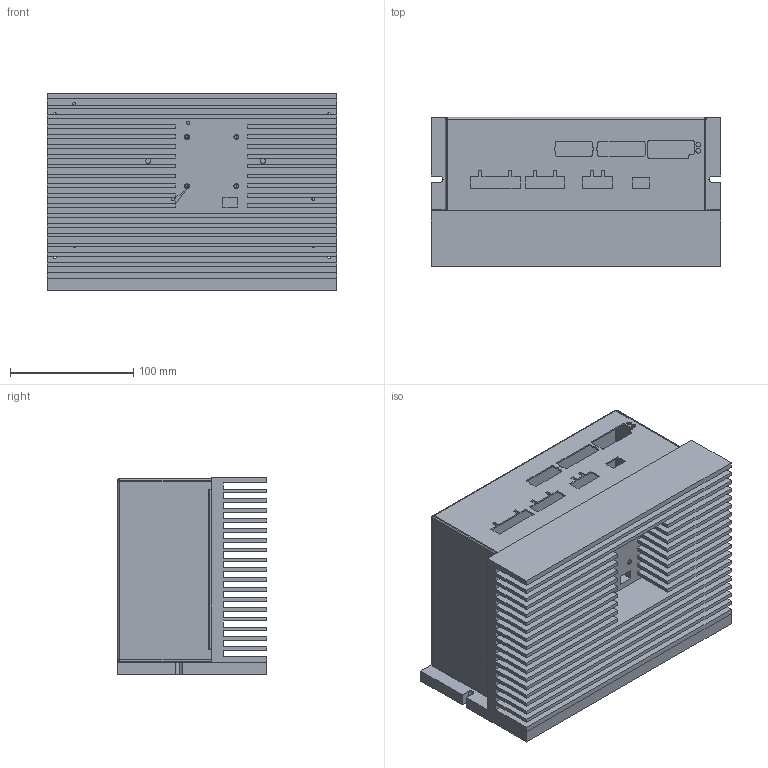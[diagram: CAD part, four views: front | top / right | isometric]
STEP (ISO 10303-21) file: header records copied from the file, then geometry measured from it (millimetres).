
FILE_DESCRIPTION (( 'STEP AP214' ), '1' );
FILE_NAME ('詢揤 235x150x45 蚾饜极.STEP', '2022-10-24T08:33:15', ( '' ), ( '' ), 'SwSTEP 2.0', 'SolidWorks 2018', '' );
FILE_SCHEMA (( 'AUTOMOTIVE_DESIGN' ));
Length unit declared in the file: millimetre
Products named in the file (4): 235x150x45 底座散热片; 詢揤 235x150x45 蚾饜极; 235x150x45 底座散热片2; 235x150x45 俋褲
Assembly tree (3 placements, depth 2):
  詢揤 235x150x45 蚾饜极
    235x150x45 底座散热片2
    235x150x45 俋褲
    235x150x45 底座散热片
Bounding box: 235 x 121 x 160 mm (x, y, z)
Volume: 1431313.2 mm3; surface area: 657569.5 mm2
Topology: 4 solids, 4 shells, 470 faces, 1267 edges, 780 vertices
Faces by surface type: plane 264, cylinder 111, cone 75, bspline 20
Entity records: 15715 total; most frequent: CARTESIAN_POINT 3290, ORIENTED_EDGE 2478, DIRECTION 2380, EDGE_CURVE 1239, LINE 932, VECTOR 932, VERTEX_POINT 780, AXIS2_PLACEMENT_3D 724
